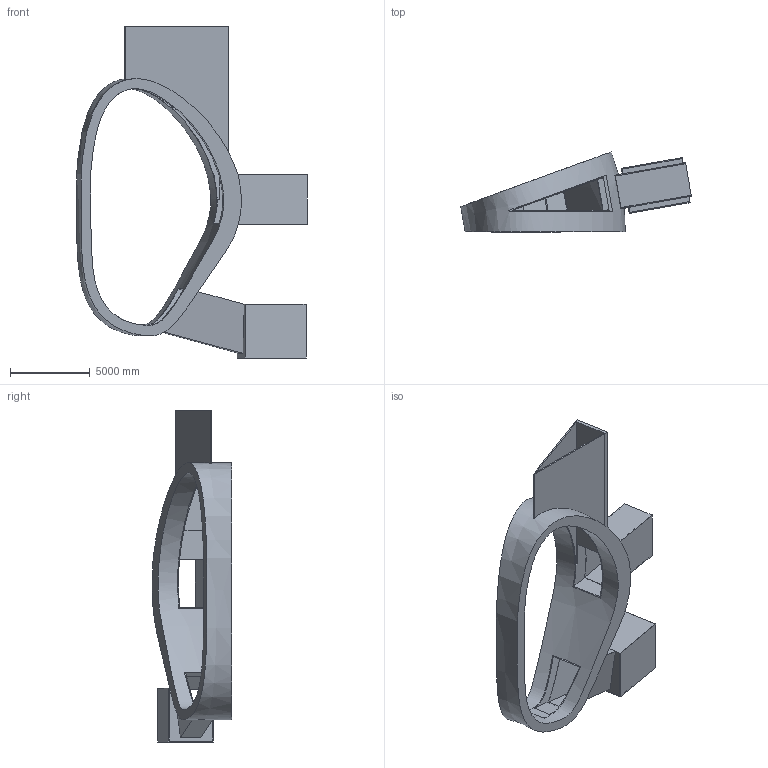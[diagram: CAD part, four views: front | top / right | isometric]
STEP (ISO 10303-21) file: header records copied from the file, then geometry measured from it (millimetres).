
FILE_DESCRIPTION(('FreeCAD Model'),'2;1');
FILE_NAME('Open CASCADE Shape Model','2026-10-11T08:36:59',('Bluemira'), ('Bluemira'),'Open CASCADE STEP processor 7.8','FreeCAD','Unknown');
FILE_SCHEMA(('AP242_MANAGED_MODEL_BASED_3D_ENGINEERING_MIM_LF. {1 0 10303 442 1 1 4 }'));
Products named in the file (1): Body_1
Bounding box: 14453.55 x 5000.85 x 20798.23 mm (x, y, z)
Volume: 92107582126.6 mm3; surface area: 716437934.3 mm2
Topology: 1 solids, 1 shells, 67 faces, 186 edges, 123 vertices
Faces by surface type: plane 55, revolution 12
Entity records: 43115 total; most frequent: CARTESIAN_POINT 39863, DIRECTION 415, ORIENTED_EDGE 372, PCURVE 372, DEFINITIONAL_REPRESENTATION 372, B_SPLINE_CURVE_WITH_KNOTS 284, LINE 281, VECTOR 281
